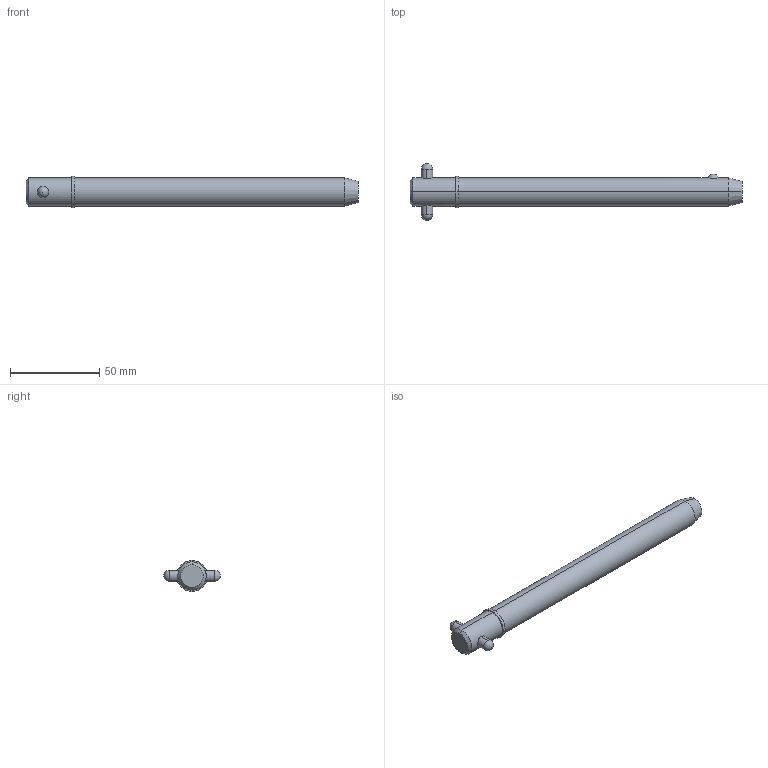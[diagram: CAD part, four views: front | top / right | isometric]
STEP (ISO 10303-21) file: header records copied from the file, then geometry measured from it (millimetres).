
FILE_DESCRIPTION (( 'STEP AP203' ), '1' );
FILE_NAME ('33018.W6255.step', '2024-11-19T17:19:16', ( '' ), ( '' ), 'SwSTEP 2.0', 'SolidWorks 2019', '' );
FILE_SCHEMA (( 'CONFIG_CONTROL_DESIGN' ));
Length unit declared in the file: millimetre
Products named in the file (3): Part2_33018.W6255; Part1_33018.W6255; 33018.W6255
Assembly tree (2 placements, depth 2):
  33018.W6255
    Part1_33018.W6255
    Part2_33018.W6255
Bounding box: 186.06 x 31.75 x 17.47 mm (x, y, z)
Volume: 37003.3 mm3; surface area: 10488.9 mm2
Topology: 2 solids, 2 shells, 22 faces, 47 edges, 30 vertices
Faces by surface type: cylinder 10, sphere 4, cone 4, plane 4
Entity records: 1047 total; most frequent: CARTESIAN_POINT 290, DIRECTION 110, ORIENTED_EDGE 82, AXIS2_PLACEMENT_3D 48, EDGE_CURVE 41, EDGE_LOOP 27, VERTEX_POINT 26, PERSON_AND_ORGANIZATION 26
